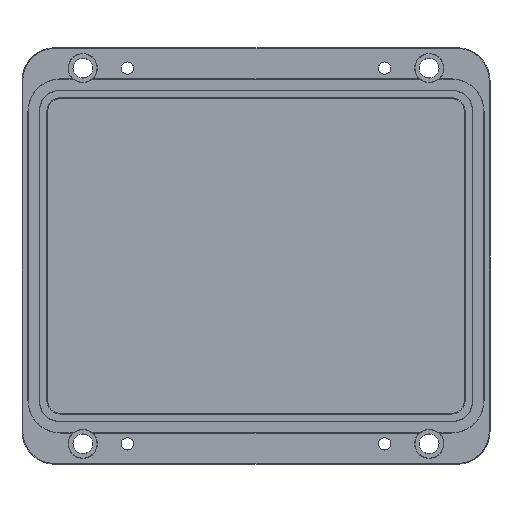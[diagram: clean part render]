
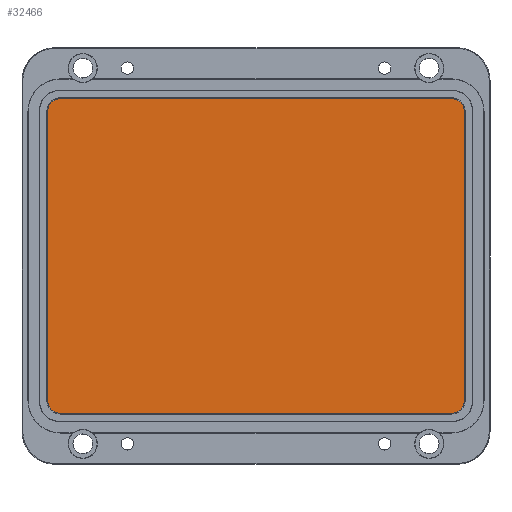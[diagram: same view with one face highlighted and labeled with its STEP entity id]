
A CAD part, top view. The second image highlights one B-rep face of the part: STEP entity #32466.
In plain terms, the highlighted planar face has unit normal (0, 0, 1).
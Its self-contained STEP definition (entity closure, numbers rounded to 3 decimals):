
#10170=CARTESIAN_POINT('',(82.9,3.9,48.2));
#10171=DIRECTION('',(0.,0.,-1.));
#10172=DIRECTION('',(1.,0.,0.));
#10173=AXIS2_PLACEMENT_3D('',#10170,#10171,#10172);
#10175=DIRECTION('',(-1.,0.,0.));
#10176=VECTOR('',#10175,79.);
#10177=CARTESIAN_POINT('',(82.9,1.3,48.2));
#10178=LINE('',#10177,#10176);
#10179=CARTESIAN_POINT('',(3.9,3.9,48.2));
#10180=DIRECTION('',(0.,0.,-1.));
#10181=DIRECTION('',(0.,-1.,0.));
#10182=AXIS2_PLACEMENT_3D('',#10179,#10180,#10181);
#10184=DIRECTION('',(0.,1.,0.));
#10185=VECTOR('',#10184,58.4);
#10186=CARTESIAN_POINT('',(1.3,3.9,48.2));
#10187=LINE('',#10186,#10185);
#10188=CARTESIAN_POINT('',(3.9,62.3,48.2));
#10189=DIRECTION('',(0.,0.,-1.));
#10190=DIRECTION('',(-1.,0.,0.));
#10191=AXIS2_PLACEMENT_3D('',#10188,#10189,#10190);
#10193=DIRECTION('',(1.,0.,0.));
#10194=VECTOR('',#10193,79.);
#10195=CARTESIAN_POINT('',(3.9,64.9,48.2));
#10196=LINE('',#10195,#10194);
#10197=CARTESIAN_POINT('',(82.9,62.3,48.2));
#10198=DIRECTION('',(0.,0.,-1.));
#10199=DIRECTION('',(0.,1.,0.));
#10200=AXIS2_PLACEMENT_3D('',#10197,#10198,#10199);
#10202=DIRECTION('',(0.,-1.,0.));
#10203=VECTOR('',#10202,58.4);
#10204=CARTESIAN_POINT('',(85.5,62.3,48.2));
#10205=LINE('',#10204,#10203);
#16145=CARTESIAN_POINT('',(1.3,3.9,48.2));
#16146=VERTEX_POINT('',#16145);
#16147=CARTESIAN_POINT('',(3.9,1.3,48.2));
#16148=VERTEX_POINT('',#16147);
#16149=CARTESIAN_POINT('',(1.3,62.3,48.2));
#16150=VERTEX_POINT('',#16149);
#16151=CARTESIAN_POINT('',(3.9,64.9,48.2));
#16152=VERTEX_POINT('',#16151);
#16153=CARTESIAN_POINT('',(82.9,64.9,48.2));
#16154=VERTEX_POINT('',#16153);
#16155=CARTESIAN_POINT('',(85.5,62.3,48.2));
#16156=VERTEX_POINT('',#16155);
#16157=CARTESIAN_POINT('',(85.5,3.9,48.2));
#16158=VERTEX_POINT('',#16157);
#16159=CARTESIAN_POINT('',(82.9,1.3,48.2));
#16160=VERTEX_POINT('',#16159);
#32451=CARTESIAN_POINT('',(3.9,62.3,48.2));
#32452=DIRECTION('',(0.,0.,1.));
#32453=DIRECTION('',(-1.,0.,0.));
#32454=AXIS2_PLACEMENT_3D('',#32451,#32452,#32453);
#32455=PLANE('',#32454);
#32456=ORIENTED_EDGE('',*,*,#32432,.T.);
#32457=ORIENTED_EDGE('',*,*,#32445,.T.);
#32458=ORIENTED_EDGE('',*,*,#32347,.T.);
#32459=ORIENTED_EDGE('',*,*,#32362,.T.);
#32460=ORIENTED_EDGE('',*,*,#32376,.T.);
#32461=ORIENTED_EDGE('',*,*,#32390,.T.);
#32462=ORIENTED_EDGE('',*,*,#32404,.T.);
#32463=ORIENTED_EDGE('',*,*,#32418,.T.);
#32464=EDGE_LOOP('',(#32456,#32457,#32458,#32459,#32460,#32461,#32462,#32463));
#32465=FACE_OUTER_BOUND('',#32464,.F.);
#10174=CIRCLE('',#10173,2.6);
#10183=CIRCLE('',#10182,2.6);
#10192=CIRCLE('',#10191,2.6);
#10201=CIRCLE('',#10200,2.6);
#32347=EDGE_CURVE('',#16148,#16146,#10183,.T.);
#32362=EDGE_CURVE('',#16146,#16150,#10187,.T.);
#32376=EDGE_CURVE('',#16150,#16152,#10192,.T.);
#32390=EDGE_CURVE('',#16152,#16154,#10196,.T.);
#32404=EDGE_CURVE('',#16154,#16156,#10201,.T.);
#32418=EDGE_CURVE('',#16156,#16158,#10205,.T.);
#32432=EDGE_CURVE('',#16158,#16160,#10174,.T.);
#32445=EDGE_CURVE('',#16160,#16148,#10178,.T.);
#32466=ADVANCED_FACE('',(#32465),#32455,.T.);
